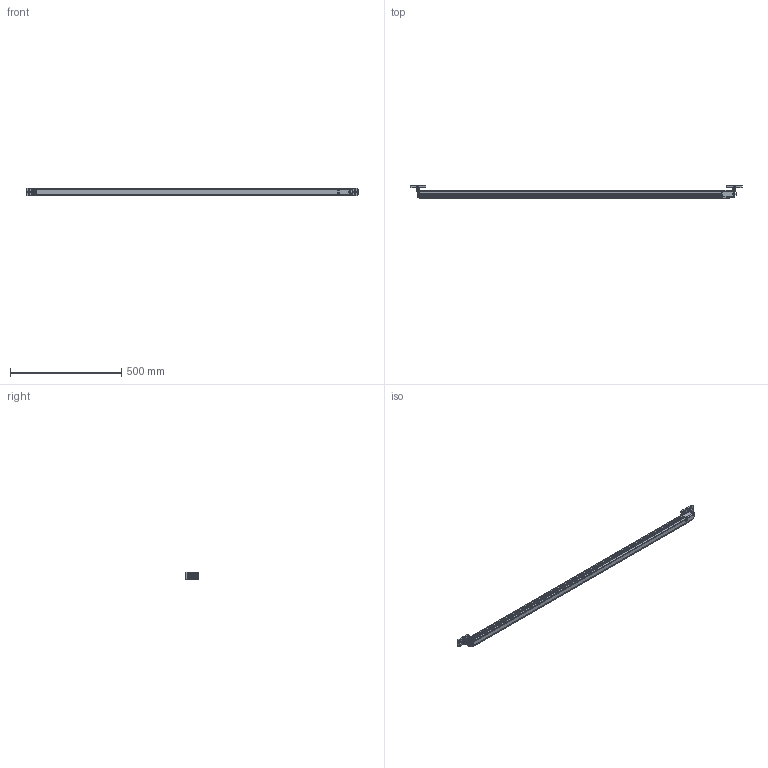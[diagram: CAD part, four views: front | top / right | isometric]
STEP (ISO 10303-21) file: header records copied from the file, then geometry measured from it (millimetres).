
FILE_DESCRIPTION((''),'2;1');
FILE_NAME('M:\INVENTORjob\Konstruktion\LV6036\Freigabe\Bauraummodelle\Geräte\MLC_R_1350.stp','2012-12-06T10:55:49',('seisen'),(''),'Autodesk Inventor 2009','Autodesk Inventor 2009','');
FILE_SCHEMA(('AUTOMOTIVE_DESIGN { 1 0 10303 214 1 1 1 1 }'));
Length unit declared in the file: millimetre
Products named in the file (13): MLC_R_1350; Anschlusskappe_R; Profil MLC 1350; Endkappe_R; BT-R_Zubehör; Wandteil_Zubehör; Klemmring_BT-R_Zubehör; DIN 912 - ersetzt durch DIN EN ISO 4762 M5 x 12; DIN 934 - ersetzt durch DIN EN 24032/28673/28674 M5; DIN 6912 M5 x 30; Zylinder_Zubehör; DIN 7991 - ersetzt durch DIN EN ISO 10642 M6  x  12; Nutenstein M6
Assembly tree (16 placements, depth 3):
  MLC_R_1350
    Anschlusskappe_R
    Profil MLC 1350
    Endkappe_R
    BT-R_Zubehör  x2
      Wandteil_Zubehör
      Klemmring_BT-R_Zubehör
      DIN 912 - ersetzt durch DIN EN ISO 4762 M5 x 12
      DIN 934 - ersetzt durch DIN EN 24032/28673/28674 M5
      DIN 6912 M5 x 30
    Zylinder_Zubehör
    DIN 7991 - ersetzt durch DIN EN ISO 10642 M6  x  12
    Nutenstein M6  x2
Bounding box: 1489.91 x 55.35 x 34 mm (x, y, z)
Volume: 1311514.8 mm3; surface area: 250868.9 mm2
Topology: 21 solids, 21 shells, 779 faces, 2035 edges, 1285 vertices
Faces by surface type: plane 350, cylinder 254, bspline 64, torus 47, cone 46, sphere 18
Full cylindrical faces by diameter (mm): 2.5 x2, 4.65 x2, 5 x12, 5.18 x2, 5.55 x2, 6 x1, 6.2 x9, 8.5 x4, 8.6 x2, 11.34 x1, 12 x2, 18 x1, 22.5 x1
Entity records: 11933 total; most frequent: CARTESIAN_POINT 3625, ORIENTED_EDGE 1642, DIRECTION 1635, EDGE_CURVE 821, AXIS2_PLACEMENT_3D 607, VERTEX_POINT 549, VECTOR 421, LINE 421
